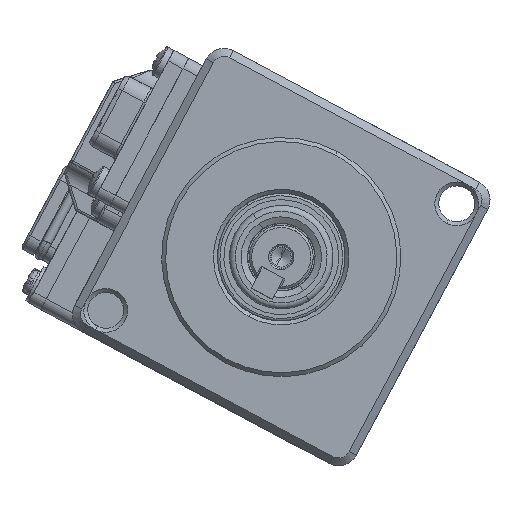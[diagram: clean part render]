
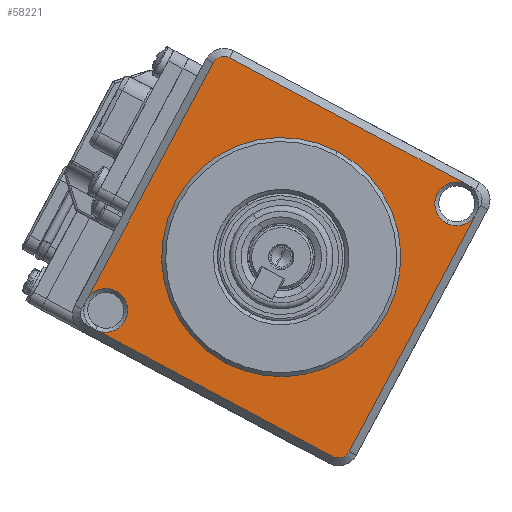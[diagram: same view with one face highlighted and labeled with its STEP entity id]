
A CAD part, front view. The second image highlights one B-rep face of the part: STEP entity #58221.
In plain terms, the highlighted planar face has unit normal (0, -1, 0) as drawn and (0, 0, 1) by its records, which use the part's own axes.
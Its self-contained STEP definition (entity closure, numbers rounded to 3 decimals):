
#199 = VECTOR ( 'NONE', #69880, 1000. ) ;
#758 = CARTESIAN_POINT ( 'NONE',  ( 17.5, 17.5, 5.5 ) ) ;
#1475 = CARTESIAN_POINT ( 'NONE',  ( 0., 0., 5.5 ) ) ;
#2620 = VERTEX_POINT ( 'NONE', #97086 ) ;
#3077 = ORIENTED_EDGE ( 'NONE', *, *, #82007, .T. ) ;
#4863 = VERTEX_POINT ( 'NONE', #65637 ) ;
#7710 = EDGE_CURVE ( 'NONE', #2620, #92343, #94551, .T. ) ;
#8166 = FACE_OUTER_BOUND ( 'NONE', #84609, .T. ) ;
#8627 = CIRCLE ( 'NONE', #20399, 2.75 ) ;
#8727 = EDGE_CURVE ( 'NONE', #92343, #4863, #79570, .T. ) ;
#9320 = DIRECTION ( 'NONE',  ( 0., 0., 1. ) ) ;
#9743 = CARTESIAN_POINT ( 'NONE',  ( -17.5, -17.5, 5.5 ) ) ;
#9779 = CARTESIAN_POINT ( 'NONE',  ( 19., -15.992, 5.5 ) ) ;
#9921 = VERTEX_POINT ( 'NONE', #53478 ) ;
#10718 = DIRECTION ( 'NONE',  ( 0., 0., -1. ) ) ;
#10720 = CARTESIAN_POINT ( 'NONE',  ( 16.263, -16.263, 5.5 ) ) ;
#10879 = EDGE_CURVE ( 'NONE', #62628, #108884, #15988, .T. ) ;
#12417 = PLANE ( 'NONE',  #34767 ) ;
#15675 = EDGE_LOOP ( 'NONE', ( #82858, #76970 ) ) ;
#15988 = CIRCLE ( 'NONE', #109007, 15. ) ;
#18433 = DIRECTION ( 'NONE',  ( 0., 0., 1. ) ) ;
#19371 = DIRECTION ( 'NONE',  ( 0., 0., -1. ) ) ;
#20399 = AXIS2_PLACEMENT_3D ( 'NONE', #62809, #73508, #45105 ) ;
#20425 = CARTESIAN_POINT ( 'NONE',  ( -17.5, -19., 5.5 ) ) ;
#22074 = VERTEX_POINT ( 'NONE', #112085 ) ;
#22586 = DIRECTION ( 'NONE',  ( 0., 0., 1. ) ) ;
#23531 = AXIS2_PLACEMENT_3D ( 'NONE', #39867, #10718, #105754 ) ;
#24492 = ORIENTED_EDGE ( 'NONE', *, *, #112483, .T. ) ;
#29524 = VECTOR ( 'NONE', #75837, 1000. ) ;
#29596 = CIRCLE ( 'NONE', #37802, 2.75 ) ;
#29876 = CARTESIAN_POINT ( 'NONE',  ( -19., 15.992, 5.5 ) ) ;
#30215 = EDGE_CURVE ( 'NONE', #4863, #22074, #75001, .T. ) ;
#31615 = ORIENTED_EDGE ( 'NONE', *, *, #7710, .T. ) ;
#32012 = VERTEX_POINT ( 'NONE', #100308 ) ;
#33302 = EDGE_CURVE ( 'NONE', #108884, #62628, #106930, .T. ) ;
#34767 = AXIS2_PLACEMENT_3D ( 'NONE', #50596, #22586, #87710 ) ;
#37725 = ORIENTED_EDGE ( 'NONE', *, *, #52169, .T. ) ;
#37802 = AXIS2_PLACEMENT_3D ( 'NONE', #10720, #48905, #114773 ) ;
#39867 = CARTESIAN_POINT ( 'NONE',  ( -16.263, 16.263, 5.5 ) ) ;
#40036 = CARTESIAN_POINT ( 'NONE',  ( -13.513, 16.263, 5.5 ) ) ;
#45105 = DIRECTION ( 'NONE',  ( 1., 0., 0. ) ) ;
#45940 = ORIENTED_EDGE ( 'NONE', *, *, #73671, .T. ) ;
#47414 = VERTEX_POINT ( 'NONE', #57549 ) ;
#48707 = DIRECTION ( 'NONE',  ( 0., 0., 1. ) ) ;
#48905 = DIRECTION ( 'NONE',  ( 0., 0., -1. ) ) ;
#49085 = DIRECTION ( 'NONE',  ( -1., 0., 0. ) ) ;
#49933 = CARTESIAN_POINT ( 'NONE',  ( 0., 0., 5.5 ) ) ;
#50093 = AXIS2_PLACEMENT_3D ( 'NONE', #1475, #48707, #67268 ) ;
#50596 = CARTESIAN_POINT ( 'NONE',  ( 0., 0., 5.5 ) ) ;
#52169 = EDGE_CURVE ( 'NONE', #9921, #97402, #8627, .T. ) ;
#52371 = EDGE_CURVE ( 'NONE', #32012, #115247, #54281, .T. ) ;
#52551 = CARTESIAN_POINT ( 'NONE',  ( -15., 0., 5.5 ) ) ;
#53478 = CARTESIAN_POINT ( 'NONE',  ( -15.992, 19., 5.5 ) ) ;
#54281 = CIRCLE ( 'NONE', #114345, 1.5 ) ;
#57549 = CARTESIAN_POINT ( 'NONE',  ( 15.992, -19., 5.5 ) ) ;
#58221 = ADVANCED_FACE ( 'NONE', ( #115583, #8166 ), #12417, .T. ) ;
#62628 = VERTEX_POINT ( 'NONE', #52551 ) ;
#62809 = CARTESIAN_POINT ( 'NONE',  ( -16.263, 16.263, 5.5 ) ) ;
#65637 = CARTESIAN_POINT ( 'NONE',  ( 19., 17.5, 5.5 ) ) ;
#65805 = LINE ( 'NONE', #119195, #84846 ) ;
#66219 = CIRCLE ( 'NONE', #23531, 2.75 ) ;
#66250 = VECTOR ( 'NONE', #49085, 1000. ) ;
#67268 = DIRECTION ( 'NONE',  ( 1., 0., 0. ) ) ;
#69880 = DIRECTION ( 'NONE',  ( 0., -1., 0. ) ) ;
#73251 = ORIENTED_EDGE ( 'NONE', *, *, #98118, .T. ) ;
#73508 = DIRECTION ( 'NONE',  ( 0., 0., -1. ) ) ;
#73671 = EDGE_CURVE ( 'NONE', #47414, #2620, #29596, .T. ) ;
#74139 = VERTEX_POINT ( 'NONE', #29876 ) ;
#75001 = CIRCLE ( 'NONE', #121070, 1.5 ) ;
#75837 = DIRECTION ( 'NONE',  ( 0., 1., 0. ) ) ;
#76970 = ORIENTED_EDGE ( 'NONE', *, *, #33302, .F. ) ;
#79570 = LINE ( 'NONE', #103472, #29524 ) ;
#82007 = EDGE_CURVE ( 'NONE', #97402, #74139, #66219, .T. ) ;
#82858 = ORIENTED_EDGE ( 'NONE', *, *, #10879, .F. ) ;
#84609 = EDGE_LOOP ( 'NONE', ( #104231, #92407, #45940, #31615, #109694, #87241, #24492, #37725, #3077, #73251 ) ) ;
#84846 = VECTOR ( 'NONE', #103162, 1000. ) ;
#85844 = DIRECTION ( 'NONE',  ( 1., 0., 0. ) ) ;
#86443 = CARTESIAN_POINT ( 'NONE',  ( 16.263, -16.263, 5.5 ) ) ;
#86595 = CARTESIAN_POINT ( 'NONE',  ( -17.5, 19., 5.5 ) ) ;
#87241 = ORIENTED_EDGE ( 'NONE', *, *, #30215, .T. ) ;
#87710 = DIRECTION ( 'NONE',  ( 1., 0., 0. ) ) ;
#92343 = VERTEX_POINT ( 'NONE', #9779 ) ;
#92407 = ORIENTED_EDGE ( 'NONE', *, *, #118385, .T. ) ;
#94551 = CIRCLE ( 'NONE', #101681, 2.75 ) ;
#94739 = DIRECTION ( 'NONE',  ( 1., 0., 0. ) ) ;
#97086 = CARTESIAN_POINT ( 'NONE',  ( 13.513, -16.263, 5.5 ) ) ;
#97402 = VERTEX_POINT ( 'NONE', #40036 ) ;
#98118 = EDGE_CURVE ( 'NONE', #74139, #32012, #107652, .T. ) ;
#100308 = CARTESIAN_POINT ( 'NONE',  ( -19., -17.5, 5.5 ) ) ;
#101681 = AXIS2_PLACEMENT_3D ( 'NONE', #86443, #19371, #94739 ) ;
#103162 = DIRECTION ( 'NONE',  ( 1., 0., 0. ) ) ;
#103472 = CARTESIAN_POINT ( 'NONE',  ( 19., 17.5, 5.5 ) ) ;
#104231 = ORIENTED_EDGE ( 'NONE', *, *, #52371, .T. ) ;
#105754 = DIRECTION ( 'NONE',  ( 1., 0., 0. ) ) ;
#106786 = DIRECTION ( 'NONE',  ( 1., 0., 0. ) ) ;
#106930 = CIRCLE ( 'NONE', #50093, 15. ) ;
#107374 = CARTESIAN_POINT ( 'NONE',  ( -19., -17.5, 5.5 ) ) ;
#107652 = LINE ( 'NONE', #107374, #199 ) ;
#108884 = VERTEX_POINT ( 'NONE', #112082 ) ;
#109007 = AXIS2_PLACEMENT_3D ( 'NONE', #49933, #115770, #106786 ) ;
#109694 = ORIENTED_EDGE ( 'NONE', *, *, #8727, .T. ) ;
#112082 = CARTESIAN_POINT ( 'NONE',  ( 15., 0., 5.5 ) ) ;
#112085 = CARTESIAN_POINT ( 'NONE',  ( 17.5, 19., 5.5 ) ) ;
#112483 = EDGE_CURVE ( 'NONE', #22074, #9921, #117828, .T. ) ;
#113461 = DIRECTION ( 'NONE',  ( 1., 0., 0. ) ) ;
#114345 = AXIS2_PLACEMENT_3D ( 'NONE', #9743, #9320, #85844 ) ;
#114773 = DIRECTION ( 'NONE',  ( 1., 0., 0. ) ) ;
#115247 = VERTEX_POINT ( 'NONE', #20425 ) ;
#115583 = FACE_BOUND ( 'NONE', #15675, .T. ) ;
#115770 = DIRECTION ( 'NONE',  ( 0., 0., 1. ) ) ;
#117828 = LINE ( 'NONE', #86595, #66250 ) ;
#118385 = EDGE_CURVE ( 'NONE', #115247, #47414, #65805, .T. ) ;
#119195 = CARTESIAN_POINT ( 'NONE',  ( 17.5, -19., 5.5 ) ) ;
#121070 = AXIS2_PLACEMENT_3D ( 'NONE', #758, #18433, #113461 ) ;
